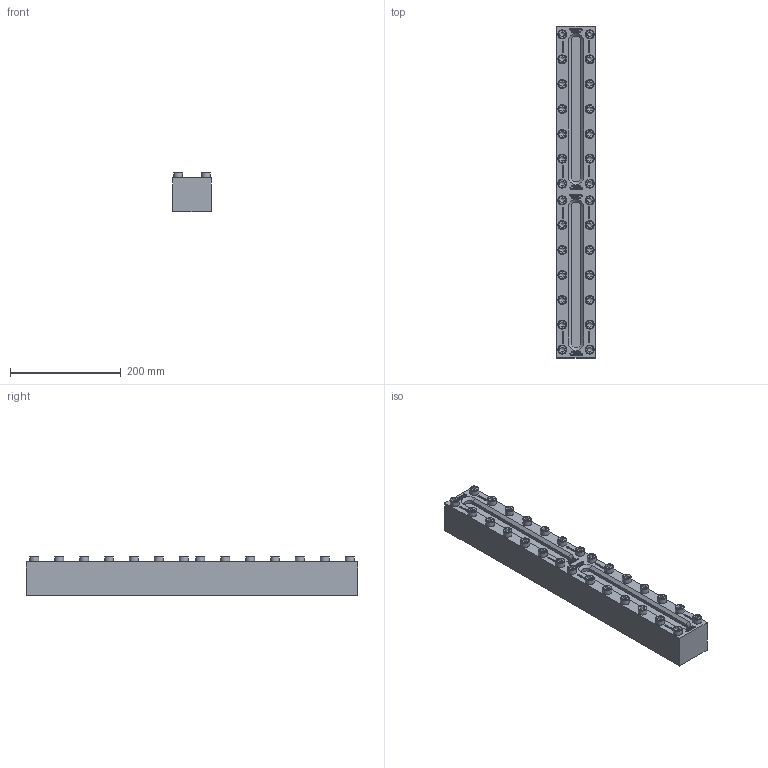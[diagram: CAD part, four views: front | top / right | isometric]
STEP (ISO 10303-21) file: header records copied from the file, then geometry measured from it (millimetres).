
FILE_DESCRIPTION(/* description */ (''),/* implementation_level */ '2;1');
FILE_NAME(/* name */ 'W:\Konstruktion_ACI\330\_Zeichnungen\STEP\ACI-330-600-40.stp',/* time_stamp */ '2022-03-01T17:20:01+01:00',/* author */ ('koslowksi'),/* organization */ (''),/* preprocessor_version */ 'ST-DEVELOPER v16.1',/* originating_system */ 'Autodesk Inventor 2016',/* authorisation */ '');
FILE_SCHEMA (('AUTOMOTIVE_DESIGN { 1 0 10303 214 3 1 1 }'));
Products named in the file (1): ACI-330-600-40.stp
Bounding box: 70 x 600 x 70.9 mm (x, y, z)
Volume: 2303745.1 mm3; surface area: 214390 mm2
Topology: 1 solids, 1 shells, 2506 faces, 6768 edges, 4500 vertices
Faces by surface type: plane 1806, bspline 604, cylinder 36, cone 32, torus 28
Full cylindrical faces by diameter (mm): 16 x28
Entity records: 82080 total; most frequent: CARTESIAN_POINT 21767, ORIENTED_EDGE 13256, DIRECTION 9162, EDGE_CURVE 6628, LINE 5148, VECTOR 5148, VERTEX_POINT 4444, EDGE_LOOP 2826
